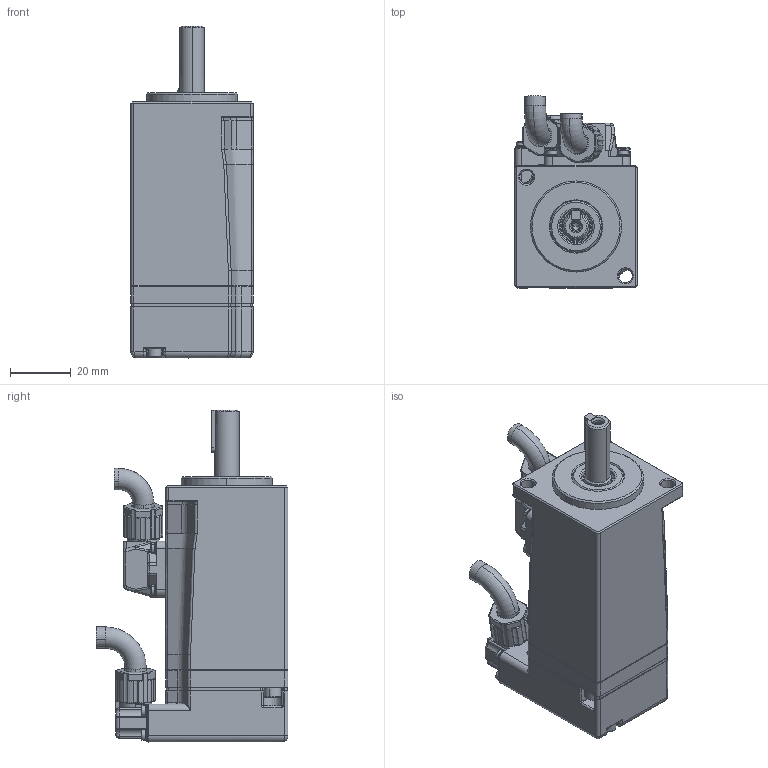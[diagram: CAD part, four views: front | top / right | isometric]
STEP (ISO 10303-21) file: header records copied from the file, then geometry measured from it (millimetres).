
FILE_DESCRIPTION (( 'STEP AP203' ), '1' );
FILE_NAME ('俋倛芞-50W-ACM1﹜ACM1S﹜ACM2-衄价陬.STEP', '2021-11-15T12:29:34', ( '' ), ( '' ), 'SwSTEP 2.0', 'SolidWorks 2020', '' );
FILE_SCHEMA (( 'CONFIG_CONTROL_DESIGN' ));
Products named in the file (1): 俋倛芞-50W-ACM1﹜ACM1S﹜ACM2-衄价陬
Bounding box: 40.2 x 63.15 x 109.3 mm (x, y, z)
Volume: 137828.1 mm3; surface area: 29646.6 mm2
Topology: 25 solids, 74 shells, 2759 faces, 6541 edges, 3883 vertices
Faces by surface type: cylinder 897, plane 882, cone 492, torus 250, bspline 212, sphere 26
Full cylindrical faces by diameter (mm): 38 x1
Entity records: 91089 total; most frequent: CARTESIAN_POINT 28181, DIRECTION 13401, ORIENTED_EDGE 13024, EDGE_CURVE 6512, AXIS2_PLACEMENT_3D 5194, VERTEX_POINT 3882, LINE 3013, VECTOR 3013
